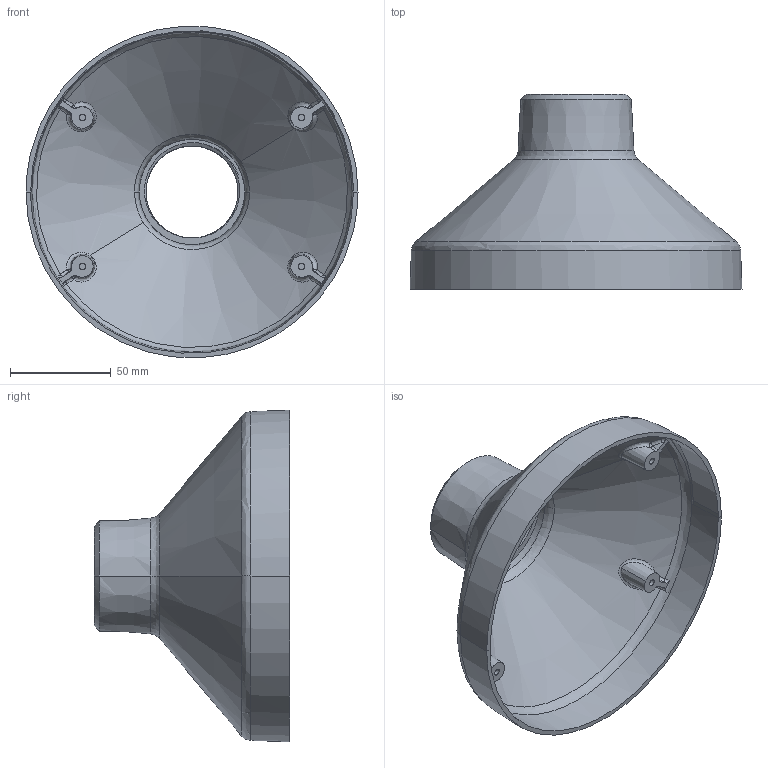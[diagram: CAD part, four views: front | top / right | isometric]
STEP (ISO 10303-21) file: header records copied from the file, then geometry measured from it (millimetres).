
FILE_DESCRIPTION (( 'STEP AP203' ), '1' );
FILE_NAME ('320A215 Pendant cap Adapter, (PS485S).STEP', '2021-09-21T15:55:18', ( '' ), ( '' ), 'SwSTEP 2.0', 'SolidWorks 2021', '' );
FILE_SCHEMA (( 'CONFIG_CONTROL_DESIGN' ));
Length unit declared in the file: millimetre
Products named in the file (1): 320A215 Pendant cap Adapter, (PS485S)
Bounding box: 165.1 x 97.11 x 164.93 mm (x, y, z)
Surface area: 81353.9 mm2 (no closed solid volume)
Topology: 0 solids, 1 shells, 125 faces, 306 edges, 186 vertices
Faces by surface type: bspline 46, cylinder 36, cone 25, plane 18
Entity records: 12718 total; most frequent: CARTESIAN_POINT 10472, ORIENTED_EDGE 607, EDGE_CURVE 306, B_SPLINE_CURVE_WITH_KNOTS 302, VERTEX_POINT 186, DIRECTION 164, EDGE_LOOP 131, ADVANCED_FACE 125
